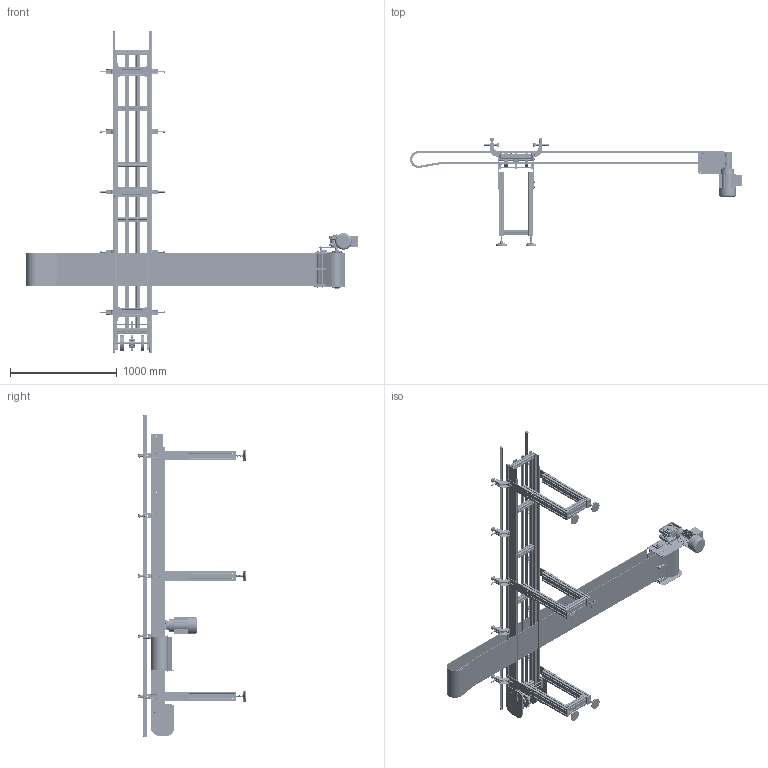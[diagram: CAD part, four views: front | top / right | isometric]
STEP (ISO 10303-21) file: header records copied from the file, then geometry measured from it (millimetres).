
FILE_DESCRIPTION (( 'STEP AP203' ), '1' );
FILE_NAME ('NASTRO_CATENA.step', '2026-05-04T14:30:35', ( 'Utente Windows' ), ( '' ), 'SwSTEP 2.0', 'SolidWorks 2024', '' );
FILE_SCHEMA (( 'CONFIG_CONTROL_DESIGN' ));
Length unit declared in the file: millimetre
Products named in the file (55): NASTRO_CATENA; 2000.001.102-1; DADI ESAGONALI NORMALI UNI 5588 INOX_M8 UNI 558 INOX; FLANGIA_GAMBE_K750_CON GIUNTI; RONDELLE UNI 6592 INOX_8.4x18 UNI 6592 INOX; 084.405.001; VITI TCEI UNI 5931 INOX_M8x25 UNI 5931 INOX; 2000.001.017; SBPF 205; 084.711.002; GRANI A PUNTA PIATTA UNI 5923_M8x25 UNI 5923; 2000.882.750; 084.802.027; 2000.1200.104; VITI TE UNI 5739_M8x20 UNI 5739; SUPPORTO_SPONDA; K1200_TT_1_Default<A macchina>; 2000.001.210; 084.302.000 DADI ALUSIC LUNGHI_084.302.016; 084.711.004; SPONDA_DIRITTO_Default<A macchina>; CATENA_DIRITTO; 2000.001.014-1; 2000.001.016; 084.808.005-1; 2000.001.013; K1200_DIR_63_P_DX; VITI TSEI UNI 5933 INOX_0420UNI5933A2; DISTANZIALE^K1200_DIR_63_P_DX; 084.709.002_084.709.002; RUOTE DI TRAINO NS882_NS882T12R25; VITI TE UNI 5739 INOX_M6x20 UNI 5739 INOX; 2000.001.211; VITI TSEI UNI 5933 INOX_0825UNI5933A2; GAMBE_K750_Default<A macchina>; CHIAVETTE_A 8x7x50 UNI 6604-69; 084.201.019-2; 084.302.016; 2000.1200.102-1; RONDELLE UNI 6592 INOX_6.4x12.5 UNI 6592 INOX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
Assembly tree (192 placements, depth 3):
  NASTRO_CATENA
    K1200_TT_1_Default<A macchina>
    K1200_DIR_63_P_DX
      2000.001.013
      2000.001.014-1  x2
      2000.001.015-1  x3
      2000.1200.102-1
      084.808.005-1
      2000.001.102-1
      2000.1200.104  x2
      2000.001.016  x2
      2000.001.017
      084.802.027
      CHIAVETTE_A 8x7x50 UNI 6604-69  x3
      SBPF 205  x2
      RUOTE DI TRAINO NS882_NS882T12R25
      RONDELLE FASCIA LARGA UNI 6593 INOX_8.4x32 UNI 6593 INOX  x2
      VITI TE UNI 5739 INOX_M8x16 UNI 5739 INOX
      GRANI A PUNTA PIATTA UNI 5923_M8x25 UNI 5923
      DISTANZIALE^K1200_DIR_63_P_DX
      VITI TE UNI 5739 INOX_M8x20 UNI 5739 INOX  x7
      RONDELLE UNI 6592 INOX_8.4x18 UNI 6592 INOX  x12
      DADI ESAGONALI NORMALI UNI 5588 INOX_M8 UNI 558 INOX  x6
      RONDELLE UNI 6592 INOX_6.4x12.5 UNI 6592 INOX  x4
      VITI TE UNI 5739 INOX_M6x20 UNI 5739 INOX  x4
      VITI TSEI UNI 5933 INOX_0420UNI5933A2  x8
      084.302.000 DADI ALUSIC LUNGHI_084.302.016  x4
      VITI TSEI UNI 5933 INOX_0820UNI5933A2  x6
      VITI TCEI UNI 5931 INOX_M8x25 UNI 5931 INOX  x2
    K1200_R_P
      2000.001.014-1  x2
      2000.1200.201-1
      2000.1200.104  x2
      2000.001.210
      2000.001.211
      2000.001.016  x2
      2000.001.015-1  x3
      RUOTE DI TRAINO NS882_NS882T12R25
      VITI TSEI UNI 5933 INOX_0420UNI5933A2  x8
      RONDELLE UNI 6592 INOX_6.4x12.5 UNI 6592 INOX  x4
      VITI TE UNI 5739 INOX_M6x20 UNI 5739 INOX  x4
      VITI TSEI UNI 5933 INOX_0825UNI5933A2  x2
      084.302.000 DADI ALUSIC LUNGHI_084.302.016  x4
      VITI TSEI UNI 5933 INOX_0820UNI5933A2  x8
    GAMBE_K750_Default<A macchina>  x3
    FLANGIA_GAMBE_K750_CON GIUNTI  x6
      084.709.002_084.709.002
      084.302.000 DADI ALUSIC 13x13-1_084.302.004
      RONDELLE UNI 6592_8.4x17 UNI 6592
      084.302.016
      084.301.000 VITI ALUSIC1_084.301.003
    PIEDE_K750  x6
      084.405.001
      084.402.005
      084.301.000 VITI ALUSIC1_084.301.003
    084.201.019-2  x6
    SPONDA_DIRITTO_Default<A macchina>
    SUPPORTO_SPONDA  x10
      084.711.004
      084.711.002
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Bounding box: 3112.54 x 1009.2 x 3016 mm (x, y, z)
Volume: 45689486.5 mm3; surface area: 17801227 mm2
Topology: 353 solids, 358 shells, 13271 faces, 34216 edges, 21793 vertices
Faces by surface type: cylinder 5922, plane 5198, cone 892, torus 770, bspline 385, sphere 104
Entity records: 178649 total; most frequent: CARTESIAN_POINT 47331, ORIENTED_EDGE 25710, DIRECTION 25580, EDGE_CURVE 12864, AXIS2_PLACEMENT_3D 9002, VERTEX_POINT 8272, VECTOR 7576, LINE 7576
